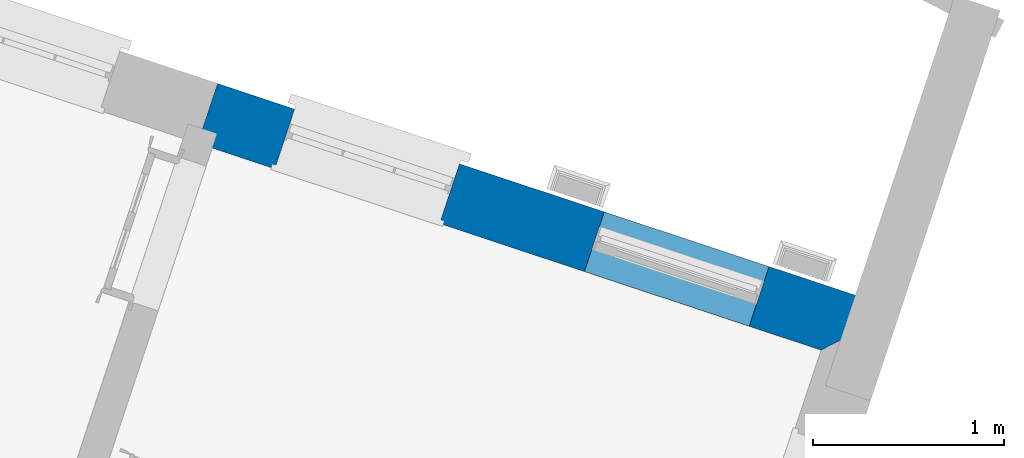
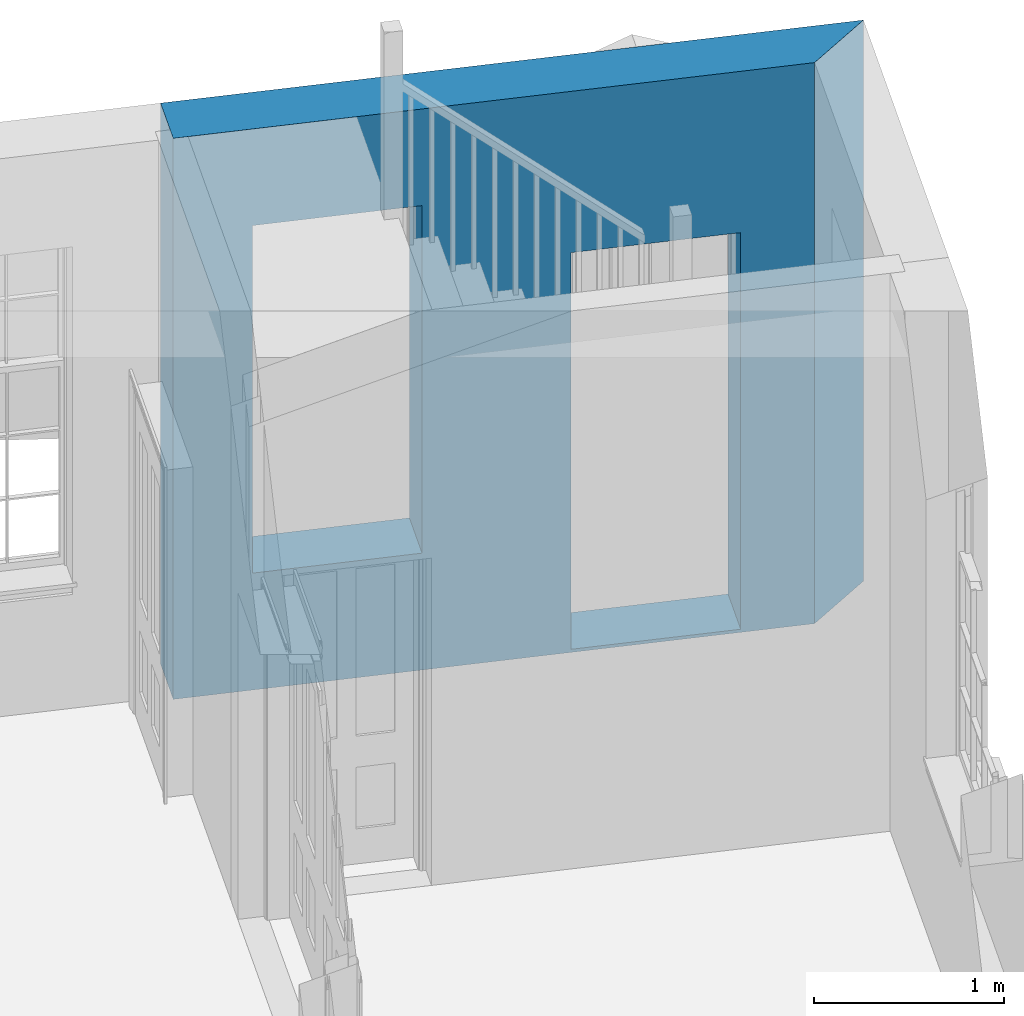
# One storey, part 4 of 6: 1 wall, 2 openings.
"""IFC4 building model written with IfcOpenShell, lengths in metres."""

from ifc_helpers import new_model, si_unit, frame, origin_with_axes, place, context, subcontext, project, spatial, polyline, outline, extrude, material, layer, layer_set, layer_usage, type_object, element, save


model = new_model("IFC4")

# Units and contexts
model_context = context("Model", 3, world=origin_with_axes())
body_context = subcontext(model_context, "Body", "Model", "MODEL_VIEW")
ifc_project = project(units=[si_unit("PLANEANGLEUNIT", "RADIAN"), si_unit("MASSUNIT", "GRAM", prefix="KILO"), si_unit("FORCEUNIT", "NEWTON", prefix="KILO"), si_unit("LENGTHUNIT", "METRE"), si_unit("AREAUNIT", "SQUARE_METRE"), si_unit("VOLUMEUNIT", "CUBIC_METRE")], contexts=[model_context, model_context])

# Sites, building, storey
site_1_placement = place(None, origin_with_axes())
site_1 = spatial("IfcSite", under=ifc_project, at=site_1_placement, Name="Tamar")
site_2_placement = place(site_1_placement, origin_with_axes())
site_2 = spatial("IfcSite", under=site_1, at=site_2_placement, Name="Site plot-17", CompositionType="ELEMENT")
building_placement = place(None, origin_with_axes())
building = spatial("IfcBuilding", under=site_2, at=building_placement, Name="Building plot-17", CompositionType="ELEMENT")
storey_placement = place(None, frame((0.0, 0.0, 26.8), z_axis=(0.0, 0.0, 1.0), x_axis=(1.0, 0.0, 0.0)))
storey = spatial("IfcBuildingStorey", under=building, at=storey_placement, Name="plot-17 0", CompositionType="ELEMENT", Elevation=26.8)

# Wall, openings
ifc_material = material(Name="Masonry")
ifc_layer = layer(ifc_material, 0.33, ventilated=False)
ifc_layer_set = layer_set([ifc_layer], Name="exterior_0.08_0.25")
ifc_layer_usage = layer_usage(ifc_layer_set, "AXIS2", "POSITIVE", -0.25)
wall_type = type_object("IfcWallType", Name="exterior_0.08_0.25", PredefinedType="SOLIDWALL", material=ifc_layer_set)
wall_placement = place(storey_placement, frame((274.456288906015, 305.249763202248, 0.0), z_axis=(0.0, 0.0, 1.0), x_axis=(-0.949078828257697, 0.315038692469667, 0.0)))
wall = element("IfcWall", 1, at=wall_placement, inside=storey, type_object=wall_type, material=ifc_layer_usage, Name="exterior", context=body_context, shape_type="SweptSolid", body=[
    extrude(outline(polyline([(0.0800000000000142, 0.0800000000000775), (-0.249999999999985, -0.249999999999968), (3.52185421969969, -0.249999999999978), (3.52185421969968, 0.0799999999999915), (0.0800000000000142, 0.0800000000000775)])), origin_with_axes(), (0.0, 0.0, 1.0), 3.6),
])
opening_1_placement = place(wall_placement, frame((0.476390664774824, 0.0, 0.0199999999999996)))
element("IfcOpeningElement", 2, at=opening_1_placement, cuts=wall, Name="My Opening", ObjectType="Opening", context=body_context, shape_type="SweptSolid", body=[
    extrude(outline(polyline([(0.0, -0.270000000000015), (0.909999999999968, -0.269999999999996), (0.909999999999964, 1.10000000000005), (-3.99680288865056e-15, 1.10000000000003), (0.0, -0.270000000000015)])), origin_with_axes(), (0.0, 0.0, 1.0), 2.545),
])
opening_2_placement = place(wall_placement, frame((2.18639066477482, 0.0, 0.75)))
element("IfcOpeningElement", 3, at=opening_2_placement, cuts=wall, Name="My Opening", ObjectType="Opening", context=body_context, shape_type="SweptSolid", body=[
    extrude(outline(polyline([(0.0, -0.270000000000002), (0.909999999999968, -0.269999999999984), (0.909999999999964, 1.10000000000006), (-3.99680288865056e-15, 1.10000000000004), (0.0, -0.270000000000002)])), origin_with_axes(), (0.0, 0.0, 1.0), 2.23),
])

save(model, "model.ifc")
